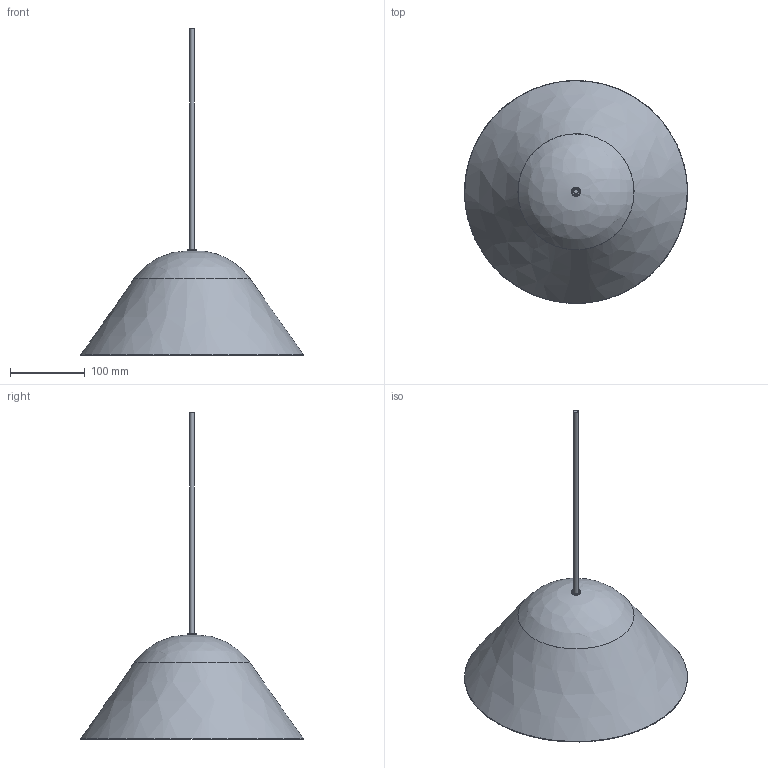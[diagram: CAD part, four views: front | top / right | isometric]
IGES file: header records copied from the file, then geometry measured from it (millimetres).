
Global section: file name: CassisMedium300mmBrass; native system: unknown; preprocessor: unknown; author: unknown; organization: unknown; date: 20230906.150434; units: millimetre
Bounding box: 299.07 x 299.07 x 438 mm (x, y, z)
Volume: 288180.3 mm3; surface area: 281604 mm2
Topology: 7 solids, 7 shells, 39 faces, 74 edges, 50 vertices
Faces by surface type: bspline 39
